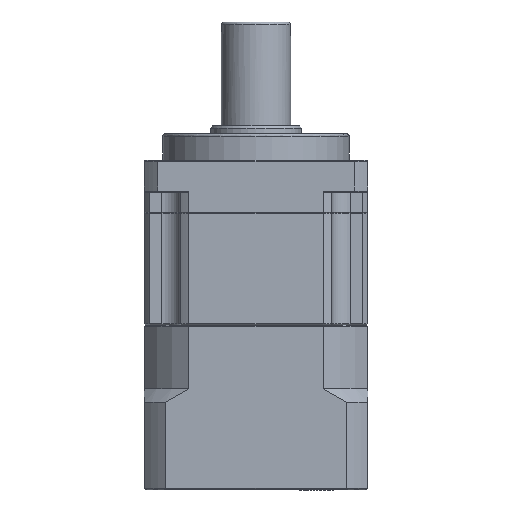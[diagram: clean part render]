
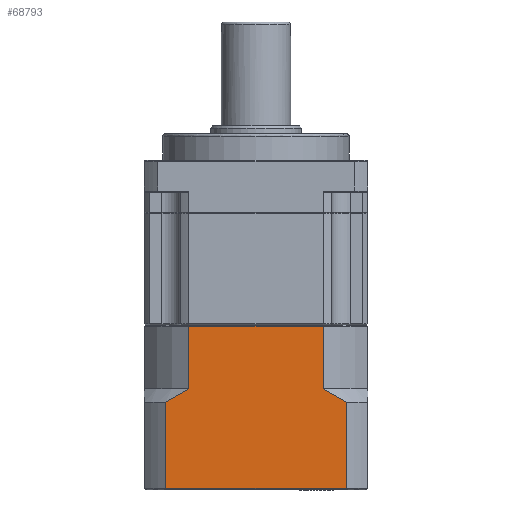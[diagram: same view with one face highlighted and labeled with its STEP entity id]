
A CAD part, front view. The second image highlights one B-rep face of the part: STEP entity #68793.
In plain terms, the highlighted planar face has unit normal (0, -1, 0).
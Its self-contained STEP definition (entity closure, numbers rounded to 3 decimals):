
#736 = VERTEX_POINT ( 'NONE', #93923 ) ;
#2757 = VECTOR ( 'NONE', #43192, 1000. ) ;
#11121 = DIRECTION ( 'NONE',  ( -1., 0., 0. ) ) ;
#12167 = VECTOR ( 'NONE', #11121, 1000. ) ;
#13373 = DIRECTION ( 'NONE',  ( 1., 0., 0. ) ) ;
#13530 = CARTESIAN_POINT ( 'NONE',  ( 2.938, 3.541, 20.388 ) ) ;
#14834 = CARTESIAN_POINT ( 'NONE',  ( 1.521, 3.541, 19.497 ) ) ;
#15859 = DIRECTION ( 'NONE',  ( 0., 0., -1. ) ) ;
#17779 = CARTESIAN_POINT ( 'NONE',  ( 1.521, 3.541, 19.497 ) ) ;
#19514 = CARTESIAN_POINT ( 'NONE',  ( -2.508, 3.541, 3.297 ) ) ;
#20250 = ORIENTED_EDGE ( 'NONE', *, *, #44037, .F. ) ;
#25064 = CARTESIAN_POINT ( 'NONE',  ( 1.521, 3.541, 3.297 ) ) ;
#27967 = VERTEX_POINT ( 'NONE', #94000 ) ;
#28848 = CARTESIAN_POINT ( 'NONE',  ( 35.462, 3.541, 19.497 ) ) ;
#31769 = ORIENTED_EDGE ( 'NONE', *, *, #40158, .F. ) ;
#31922 = EDGE_LOOP ( 'NONE', ( #20250, #60701, #31769, #73241, #80232, #90732, #85049, #99026 ) ) ;
#32839 = EDGE_CURVE ( 'NONE', #111731, #83987, #38906, .T. ) ;
#33240 = EDGE_CURVE ( 'NONE', #79298, #111731, #68715, .T. ) ;
#35520 = VECTOR ( 'NONE', #15859, 1000. ) ;
#38906 = LINE ( 'NONE', #19514, #12167 ) ;
#39095 = EDGE_CURVE ( 'NONE', #84395, #736, #63058, .T. ) ;
#40158 = EDGE_CURVE ( 'NONE', #83987, #84395, #87993, .T. ) ;
#42808 = CARTESIAN_POINT ( 'NONE',  ( 5.872, 3.541, 33.797 ) ) ;
#43192 = DIRECTION ( 'NONE',  ( 0., 0., -1. ) ) ;
#44037 = EDGE_CURVE ( 'NONE', #736, #120824, #95710, .T. ) ;
#45294 = DIRECTION ( 'NONE',  ( -1., 0., 0. ) ) ;
#46215 = AXIS2_PLACEMENT_3D ( 'NONE', #83425, #123948, #13373 ) ;
#50221 = VECTOR ( 'NONE', #45294, 1000. ) ;
#51217 = FACE_OUTER_BOUND ( 'NONE', #31922, .T. ) ;
#54152 = CARTESIAN_POINT ( 'NONE',  ( 35.462, 3.541, 19.497 ) ) ;
#54398 = EDGE_CURVE ( 'NONE', #75446, #79298, #101658, .T. ) ;
#55032 = LINE ( 'NONE', #105384, #50221 ) ;
#60701 = ORIENTED_EDGE ( 'NONE', *, *, #39095, .F. ) ;
#63003 = CARTESIAN_POINT ( 'NONE',  ( 32.6, 3.541, 21.23 ) ) ;
#63058 = B_SPLINE_CURVE_WITH_KNOTS ( 'NONE', 3,
 ( #14834, #13530, #114449, #95561 ),
 .UNSPECIFIED., .F., .F.,
 ( 4, 4 ),
 ( 0., 0.005 ),
 .UNSPECIFIED. ) ;
#63553 = CARTESIAN_POINT ( 'NONE',  ( 31.111, 3.541, 2.997 ) ) ;
#68715 = LINE ( 'NONE', #107159, #35520 ) ;
#68793 = ADVANCED_FACE ( 'NONE', ( #51217 ), #82545, .F. ) ;
#73241 = ORIENTED_EDGE ( 'NONE', *, *, #32839, .F. ) ;
#75446 = VERTEX_POINT ( 'NONE', #119810 ) ;
#78341 = VECTOR ( 'NONE', #113268, 1000. ) ;
#79298 = VERTEX_POINT ( 'NONE', #28848 ) ;
#80232 = ORIENTED_EDGE ( 'NONE', *, *, #33240, .F. ) ;
#82545 = PLANE ( 'NONE',  #46215 ) ;
#82746 = EDGE_CURVE ( 'NONE', #27967, #120824, #55032, .T. ) ;
#83425 = CARTESIAN_POINT ( 'NONE',  ( -2.508, 3.541, 2.997 ) ) ;
#83987 = VERTEX_POINT ( 'NONE', #25064 ) ;
#84395 = VERTEX_POINT ( 'NONE', #17779 ) ;
#85049 = ORIENTED_EDGE ( 'NONE', *, *, #87816, .F. ) ;
#87816 = EDGE_CURVE ( 'NONE', #27967, #75446, #110081, .T. ) ;
#87993 = LINE ( 'NONE', #118920, #127367 ) ;
#90732 = ORIENTED_EDGE ( 'NONE', *, *, #54398, .F. ) ;
#93923 = CARTESIAN_POINT ( 'NONE',  ( 5.872, 3.541, 21.997 ) ) ;
#94000 = CARTESIAN_POINT ( 'NONE',  ( 31.111, 3.541, 33.797 ) ) ;
#95561 = CARTESIAN_POINT ( 'NONE',  ( 5.872, 3.541, 21.997 ) ) ;
#95710 = LINE ( 'NONE', #101882, #78341 ) ;
#99026 = ORIENTED_EDGE ( 'NONE', *, *, #82746, .T. ) ;
#101658 = B_SPLINE_CURVE_WITH_KNOTS ( 'NONE', 3,
 ( #123367, #63003, #123811, #54152 ),
 .UNSPECIFIED., .F., .F.,
 ( 4, 4 ),
 ( 0., 0.005 ),
 .UNSPECIFIED. ) ;
#101882 = CARTESIAN_POINT ( 'NONE',  ( 5.872, 3.541, 21.997 ) ) ;
#105384 = CARTESIAN_POINT ( 'NONE',  ( -2.508, 3.541, 33.797 ) ) ;
#107159 = CARTESIAN_POINT ( 'NONE',  ( 35.462, 3.541, 2.997 ) ) ;
#109265 = DIRECTION ( 'NONE',  ( 0., 0., 1. ) ) ;
#110081 = LINE ( 'NONE', #63553, #2757 ) ;
#111731 = VERTEX_POINT ( 'NONE', #113049 ) ;
#113049 = CARTESIAN_POINT ( 'NONE',  ( 35.462, 3.541, 3.297 ) ) ;
#113268 = DIRECTION ( 'NONE',  ( 0., 0., 1. ) ) ;
#114449 = CARTESIAN_POINT ( 'NONE',  ( 4.384, 3.541, 21.23 ) ) ;
#118920 = CARTESIAN_POINT ( 'NONE',  ( 1.521, 3.541, 2.997 ) ) ;
#119810 = CARTESIAN_POINT ( 'NONE',  ( 31.111, 3.541, 21.997 ) ) ;
#120824 = VERTEX_POINT ( 'NONE', #42808 ) ;
#123367 = CARTESIAN_POINT ( 'NONE',  ( 31.111, 3.541, 21.997 ) ) ;
#123811 = CARTESIAN_POINT ( 'NONE',  ( 34.045, 3.541, 20.388 ) ) ;
#123948 = DIRECTION ( 'NONE',  ( 0., 1., 0. ) ) ;
#127367 = VECTOR ( 'NONE', #109265, 1000. ) ;
